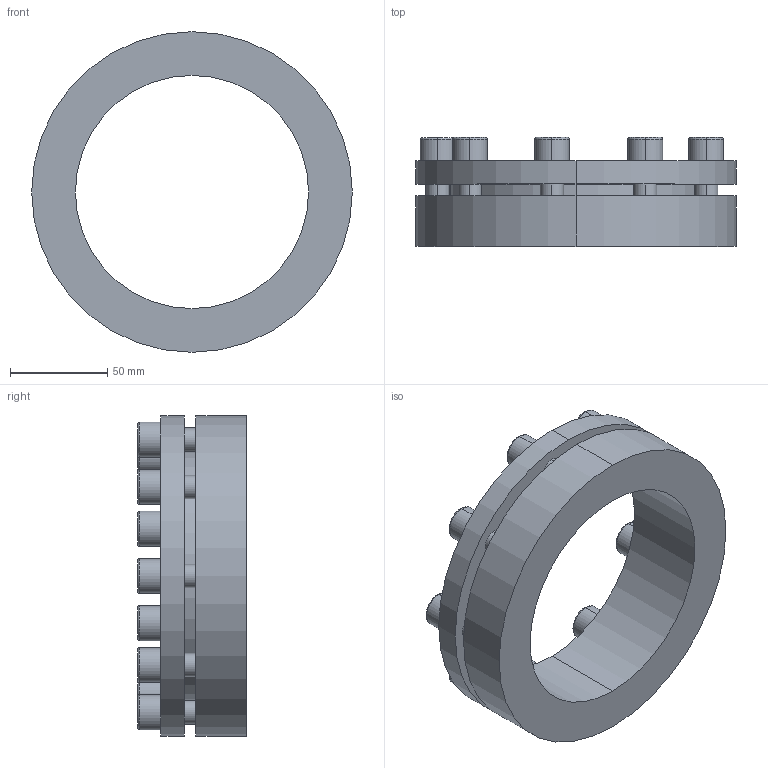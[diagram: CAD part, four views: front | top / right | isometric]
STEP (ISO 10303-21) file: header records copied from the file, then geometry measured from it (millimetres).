
FILE_DESCRIPTION (( 'STEP AP203' ), '1' );
FILE_NAME ('PL-H3 120-165.STEP', '2021-10-23T01:10:19', ( '' ), ( '' ), 'SwSTEP 2.0', 'SolidWorks 2018', '' );
FILE_SCHEMA (( 'CONFIG_CONTROL_DESIGN' ));
Length unit declared in the file: millimetre
Products named in the file (1): PL-H3 120-165
Bounding box: 165 x 56 x 165 mm (x, y, z)
Volume: 422131.1 mm3; surface area: 83243.2 mm2
Topology: 1 solids, 1 shells, 138 faces, 330 edges, 214 vertices
Faces by surface type: plane 76, cylinder 44, torus 18
Entity records: 4131 total; most frequent: DIRECTION 732, CARTESIAN_POINT 683, ORIENTED_EDGE 660, EDGE_CURVE 330, AXIS2_PLACEMENT_3D 263, VERTEX_POINT 214, VECTOR 206, LINE 206
